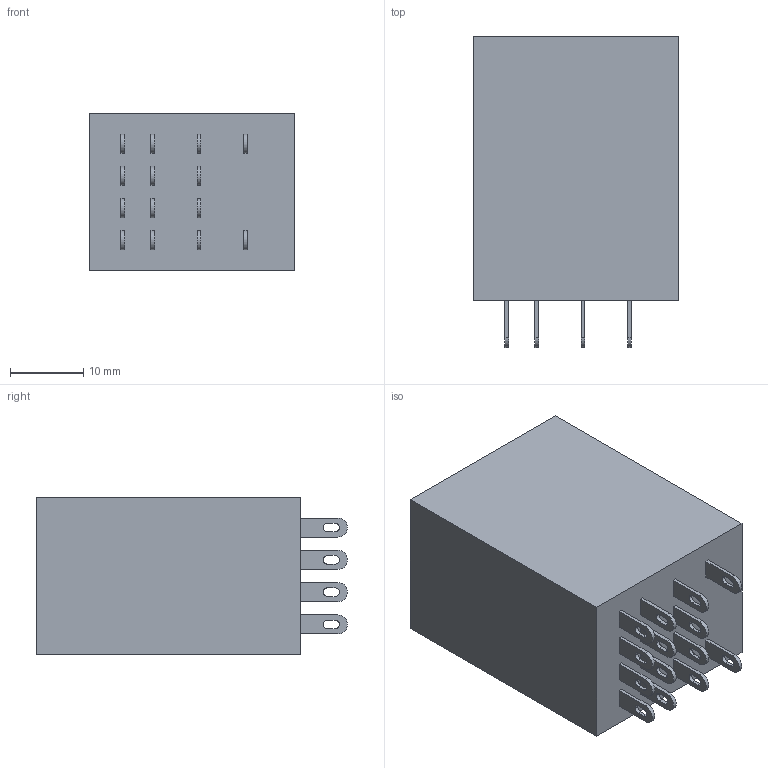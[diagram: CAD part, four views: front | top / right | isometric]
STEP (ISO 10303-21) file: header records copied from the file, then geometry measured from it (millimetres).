
FILE_DESCRIPTION(('STEP AP214'),'1');
FILE_NAME('my4zn.stp','2017-04-15T21:11:08',('TraceParts'),('TraceParts S.A.'),'Spatial InterOp 3D',' ',' ');
FILE_SCHEMA(('automotive_design'));
Length unit declared in the file: millimetre
Products named in the file (1): my4zn
Bounding box: 28 x 42.4 x 21.5 mm (x, y, z)
Volume: 21767.1 mm3; surface area: 5270.5 mm2
Topology: 1 solids, 1 shells, 160 faces, 432 edges, 288 vertices
Faces by surface type: plane 90, cylinder 70
Entity records: 5127 total; most frequent: DIRECTION 894, CARTESIAN_POINT 881, ORIENTED_EDGE 864, EDGE_CURVE 432, AXIS2_PLACEMENT_3D 301, LINE 292, VECTOR 292, VERTEX_POINT 288
